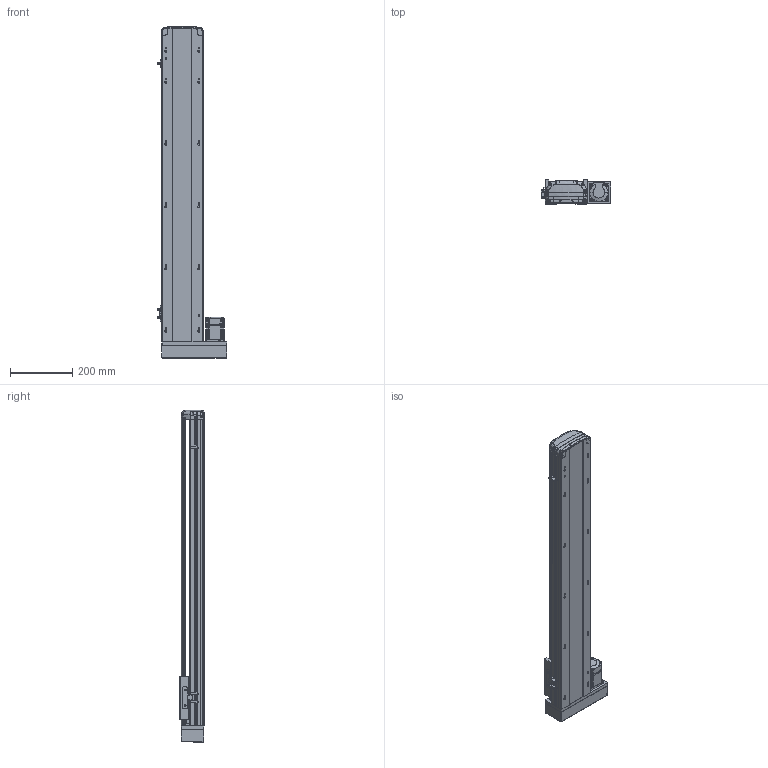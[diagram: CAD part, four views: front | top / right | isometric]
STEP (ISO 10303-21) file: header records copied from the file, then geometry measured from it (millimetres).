
FILE_DESCRIPTION (( 'STEP AP214' ), '1' );
FILE_NAME ('RTH14-XX-800-R-M20-C4.STEP', '2025-10-24T09:56:18', ( 'Microsoft' ), ( 'Microsoft' ), 'SwSTEP 2.0', 'SolidWorks 2018', '' );
FILE_SCHEMA (( 'AUTOMOTIVE_DESIGN' ));
Length unit declared in the file: millimetre
Products named in the file (10): N_RTH13-L-008-P20 萇儂啣酘蛌殏^RTH14-XX-XX-R-M20-C4; N_MSMD022P1AA_200W^RTH14-XX-XX-R-M20-C4; N_RTH14-M-007P奻裔^RTH14-XX-XX-R-M20-C4; N_RTH14-R-004-SFSR16賑釱^RTH14-XX-XX-R-M20-C4; RTH14-XX-800-R-M20-C4; N_RTH14-GY-001P^RTH14-XX-XX-R-M20-C4; N_RTH14-M-011P菁釱^RTH14-XX-XX-R-M20-C4; N_RTH13-L-018 裔赽^RTH14-XX-XX-R-M20-C4; N_OMRON EE-SX672 传感器^RTH14-XX-XX-R-M20-C4; N_RTH13-L-012感应片（外置）^RTH14-XX-XX-R-M20-C4
Assembly tree (11 placements, depth 2):
  RTH14-XX-800-R-M20-C4
    N_RTH14-M-011P菁釱^RTH14-XX-XX-R-M20-C4
    N_RTH14-M-007P奻裔^RTH14-XX-XX-R-M20-C4
    N_MSMD022P1AA_200W^RTH14-XX-XX-R-M20-C4
    N_RTH13-L-008-P20 萇儂啣酘蛌殏^RTH14-XX-XX-R-M20-C4
    N_RTH13-L-018 裔赽^RTH14-XX-XX-R-M20-C4
    N_RTH13-L-012感应片（外置）^RTH14-XX-XX-R-M20-C4
    N_OMRON EE-SX672 传感器^RTH14-XX-XX-R-M20-C4  x3
    N_RTH14-R-004-SFSR16賑釱^RTH14-XX-XX-R-M20-C4
    N_RTH14-GY-001P^RTH14-XX-XX-R-M20-C4
Bounding box: 224 x 78.03 x 1067.73 mm (x, y, z)
Volume: 4677545.2 mm3; surface area: 1096078 mm2
Topology: 10 solids, 12 shells, 1883 faces, 5272 edges, 3457 vertices
Faces by surface type: plane 991, cylinder 497, bspline 346, cone 45, torus 4
Entity records: 57679 total; most frequent: CARTESIAN_POINT 23227, ORIENTED_EDGE 7601, DIRECTION 6114, EDGE_CURVE 3806, VERTEX_POINT 2493, VECTOR 2168, LINE 2168, AXIS2_PLACEMENT_3D 1973
